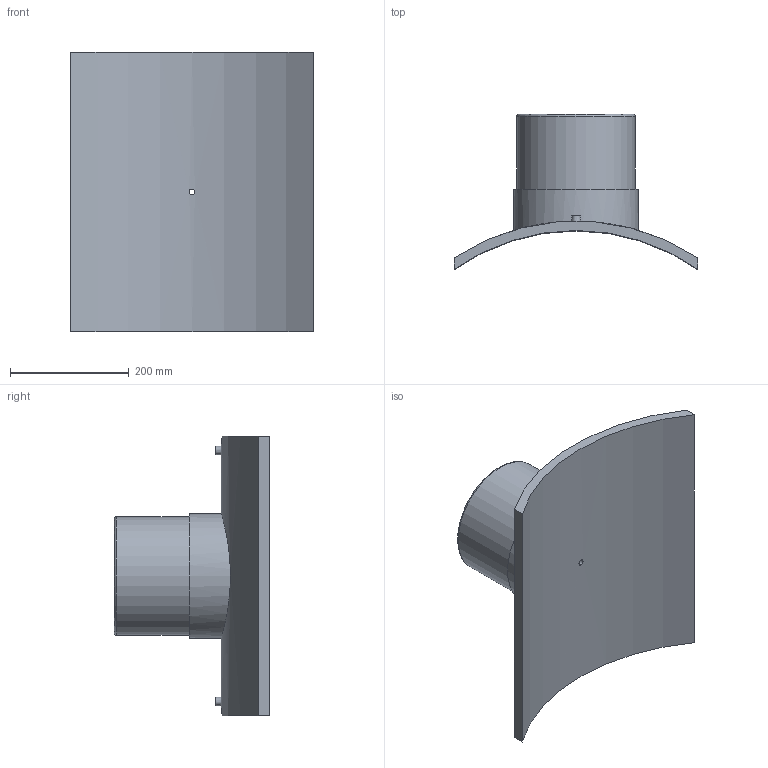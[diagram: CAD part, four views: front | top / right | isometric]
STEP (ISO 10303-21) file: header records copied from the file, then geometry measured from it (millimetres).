
FILE_DESCRIPTION(/* description */ ('PLASSON BRANCH SADDLE 710x200'),/* implementation_level */ '2;1');
FILE_NAME(/* name */ 'C:\Dropbox\KIMPROJECTS-Inventor 2019\99-16-3568-Processing\ElectroFusion Fittings\495803\stp\495803710200T.stp',/* time_stamp */ '2024-04-04T11:54:41+02:00',/* author */ ('KIM'),/* organization */ (''),/* preprocessor_version */ 'ST-DEVELOPER v17.2',/* originating_system */ 'Autodesk Inventor 2019',/* authorisation */ '');
FILE_SCHEMA (('AUTOMOTIVE_DESIGN { 1 0 10303 214 3 1 1 }'));
Length unit declared in the file: millimetre
Products named in the file (1): 495803710200T
Bounding box: 410 x 261.17 x 470 mm (x, y, z)
Volume: 5581272.4 mm3; surface area: 661799.9 mm2
Topology: 1 solids, 1 shells, 29 faces, 60 edges, 43 vertices
Faces by surface type: plane 13, cylinder 12, torus 2, cone 2
Full cylindrical faces by diameter (mm): 4 x2, 9.6 x1, 10 x2, 16 x1, 160 x1, 200 x1, 210 x1
Entity records: 1086 total; most frequent: CARTESIAN_POINT 400, DIRECTION 139, ORIENTED_EDGE 120, EDGE_CURVE 60, AXIS2_PLACEMENT_3D 60, VERTEX_POINT 43, EDGE_LOOP 41, CIRCLE 30
